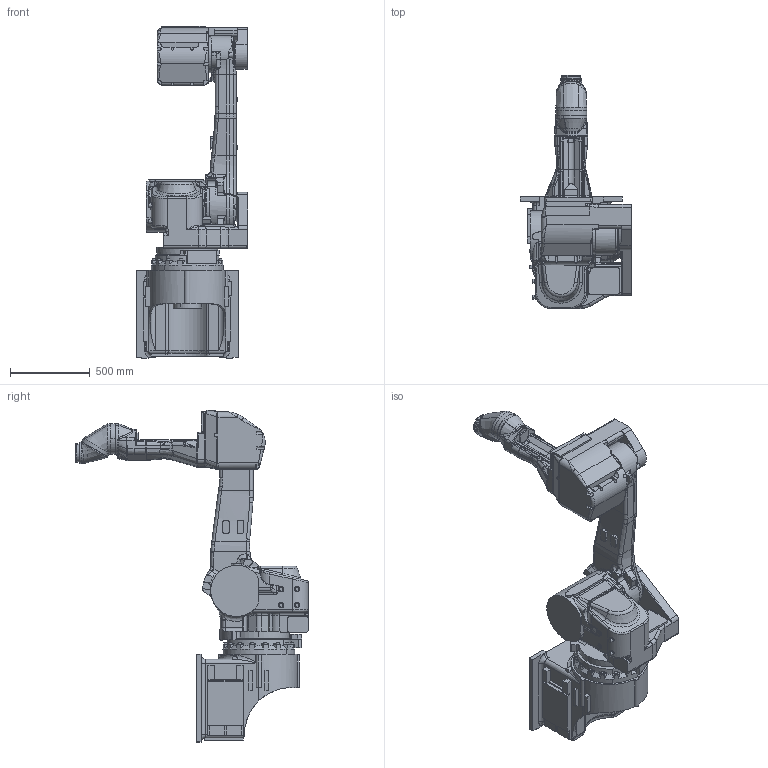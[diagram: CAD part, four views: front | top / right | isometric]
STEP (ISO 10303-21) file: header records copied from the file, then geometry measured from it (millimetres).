
FILE_DESCRIPTION(('CATIA V5 STEP Exchange'),'2;1');
FILE_NAME('F:\☆新しいフォルダ\【K-ROSET】\K-ROSET_モデル\ロボット\※ロボット\※K\☆150522_KJシリーズ一新\受領モデル\KJ\ASSY\※KJ194J-H101(tana)\ASSY　（KJ194-B101ここから修正J0とOP）\STEP_160223\KJ194-H101.stp','2016-02-23T02:48:22+00:00',('none'),('none'),'CATIA Version 5-6 Release 2013 SP5 HF60','CATIA V5 STEP AP203','none');
FILE_SCHEMA(('CONFIG_CONTROL_DESIGN'));
Products named in the file (1): KJ194-H101
Assembly tree (7 placements, depth 2):
  KJ194-H101
    #57
    #21986
    #44306
    #60757
    #100109
    #100625
    #101743
Bounding box: 700 x 1455 x 2076 mm (x, y, z)
Volume: 231966899.3 mm3; surface area: 8502708.5 mm2
Topology: 8 solids, 40 shells, 2356 faces, 6042 edges, 3704 vertices
Faces by surface type: plane 813, cylinder 776, bspline 406, cone 168, torus 152, sphere 30, extrusion 8, revolution 3
Entity records: 102922 total; most frequent: CARTESIAN_POINT 53039, ORIENTED_EDGE 11802, DIRECTION 7346, EDGE_CURVE 5901, VERTEX_POINT 3704, AXIS2_PLACEMENT_3D 3341, VECTOR 2512, LINE 2504
